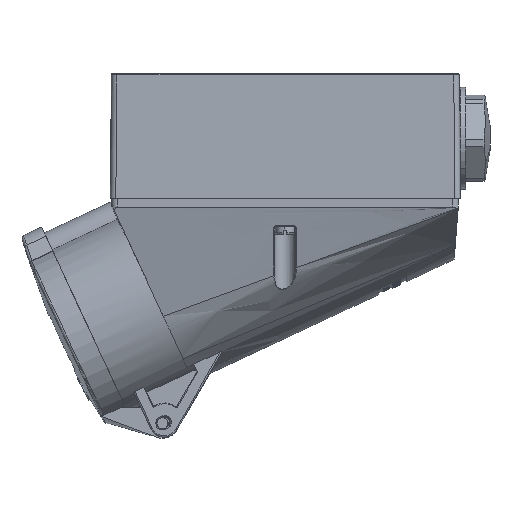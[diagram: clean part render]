
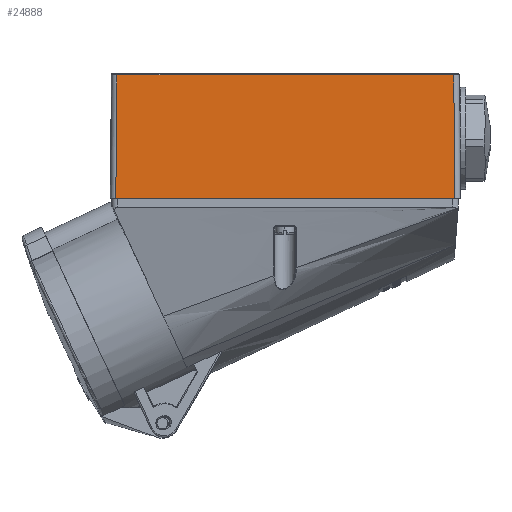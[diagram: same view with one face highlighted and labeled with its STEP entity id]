
A CAD part, left-side view. The second image highlights one B-rep face of the part: STEP entity #24888.
In plain terms, the highlighted planar face has unit normal (-1, 0, 0.009).
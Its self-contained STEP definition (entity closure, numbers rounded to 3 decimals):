
#800=CARTESIAN_POINT('',(-41.107,61.207,46.504));
#820=DIRECTION('',(0.,-1.,0.));
#821=VECTOR('',#820,122.415);
#822=CARTESIAN_POINT('',(-41.107,61.207,46.504));
#823=LINE('1406',#822,#821);
#883=CARTESIAN_POINT('',(-41.5,-61.6,1.5));
#888=DIRECTION('',(-0.009,-0.009,-1.));
#889=VECTOR('',#888,45.008);
#890=CARTESIAN_POINT('',(-41.107,-61.207,46.504));
#891=LINE('1436',#890,#889);
#1024=DIRECTION('',(-0.009,0.009,-1.));
#1025=VECTOR('',#1024,45.008);
#1026=CARTESIAN_POINT('',(-41.107,61.207,46.504));
#1027=LINE('1437',#1026,#1025);
#1031=CARTESIAN_POINT('',(-41.5,61.6,1.5));
#1049=DIRECTION('',(0.,-1.,0.));
#1050=VECTOR('',#1049,122.);
#1051=CARTESIAN_POINT('',(-41.5,61.15,1.5));
#1052=LINE('3114',#1051,#1050);
#1056=DIRECTION('',(0.,-1.,0.));
#1057=VECTOR('',#1056,0.45);
#1058=CARTESIAN_POINT('',(-41.5,61.6,1.5));
#1059=LINE('3125',#1058,#1057);
#1063=DIRECTION('',(0.,-1.,0.));
#1064=VECTOR('',#1063,0.75);
#1065=CARTESIAN_POINT('',(-41.5,-60.85,1.5));
#1066=LINE('3126',#1065,#1064);
#21953=VERTEX_POINT('',#883);
#21954=VERTEX_POINT('',#1031);
#21967=VERTEX_POINT('',#800);
#21970=CARTESIAN_POINT('',(-41.107,-61.207,
46.504));
#21971=VERTEX_POINT('',#21970);
#23245=CARTESIAN_POINT('',(-41.5,61.15,1.5));
#23246=CARTESIAN_POINT('',(-41.5,-60.85,1.5));
#23247=VERTEX_POINT('',#23245);
#23248=VERTEX_POINT('',#23246);
#24873=CARTESIAN_POINT('',(-41.5,64.8,1.5));
#24874=DIRECTION('',(-1.,0.,0.009));
#24875=DIRECTION('',(0.,1.,0.));
#24876=AXIS2_PLACEMENT_3D('',#24873,#24874,#24875);
#24877=PLANE('435',#24876);
#24879=ORIENTED_EDGE('3114',*,*,#24878,.F.);
#24881=ORIENTED_EDGE('3125',*,*,#24880,.F.);
#24882=ORIENTED_EDGE('1437',*,*,#24858,.F.);
#24883=ORIENTED_EDGE('1406',*,*,#24536,.T.);
#24884=ORIENTED_EDGE('1436',*,*,#24618,.T.);
#24885=ORIENTED_EDGE('3126',*,*,#24639,.F.);
#24886=EDGE_LOOP('435',(#24879,#24881,#24882,#24883,#24884,#24885));
#24887=FACE_OUTER_BOUND('435',#24886,.F.);
#24536=EDGE_CURVE('1406',#21967,#21971,#823,.T.);
#24618=EDGE_CURVE('1436',#21971,#21953,#891,.T.);
#24639=EDGE_CURVE('3126',#23248,#21953,#1066,.T.);
#24858=EDGE_CURVE('1437',#21967,#21954,#1027,.T.);
#24878=EDGE_CURVE('3114',#23247,#23248,#1052,.T.);
#24880=EDGE_CURVE('3125',#21954,#23247,#1059,.T.);
#24888=ADVANCED_FACE('435',(#24887),#24877,.T.);
